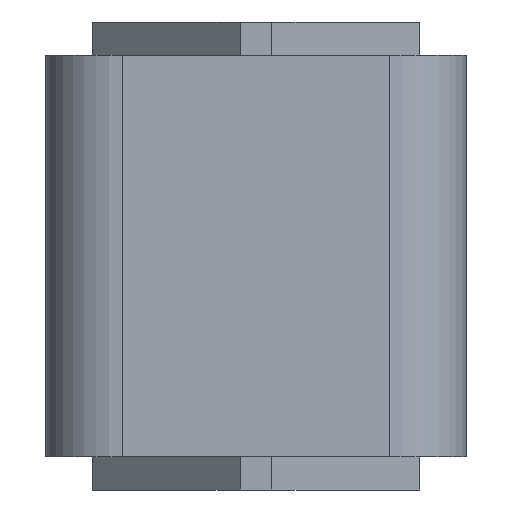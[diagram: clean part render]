
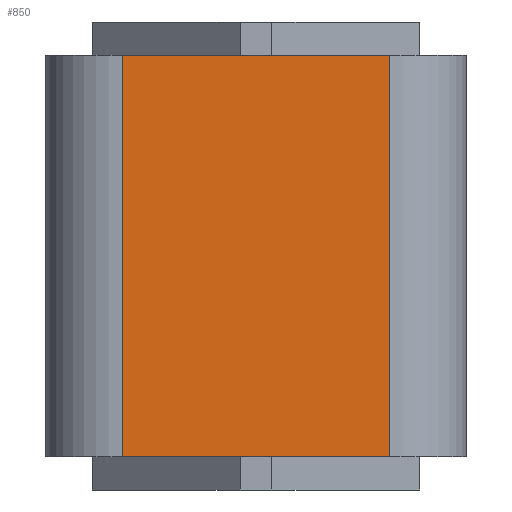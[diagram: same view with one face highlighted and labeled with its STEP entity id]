
A CAD part, front view. The second image highlights one B-rep face of the part: STEP entity #850.
In plain terms, the highlighted planar face has unit normal (0, -1, 0).
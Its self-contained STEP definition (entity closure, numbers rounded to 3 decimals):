
#600=CARTESIAN_POINT('',(-20.,-61.5,60.0));
#601=VERTEX_POINT('',#600);
#619=CARTESIAN_POINT('',(-20.,-61.5,0.0));
#620=VERTEX_POINT('',#619);
#628=CARTESIAN_POINT('',(-20.,-61.5,0.0));
#629=DIRECTION('',(0.0,0.0,1.0));
#630=VECTOR('',#629,60.0);
#631=LINE('',#628,#630);
#632=EDGE_CURVE('',#620,#601,#631,.T.);
#801=CARTESIAN_POINT('',(20.,-61.5,60.0));
#802=VERTEX_POINT('',#801);
#810=CARTESIAN_POINT('',(20.,-61.5,0.0));
#811=VERTEX_POINT('',#810);
#812=CARTESIAN_POINT('',(20.,-61.5,0.0));
#813=DIRECTION('',(0.0,0.0,1.0));
#814=VECTOR('',#813,60.0);
#815=LINE('',#812,#814);
#816=EDGE_CURVE('',#811,#802,#815,.T.);
#829=CARTESIAN_POINT('',(20.,-61.5,0.0));
#830=DIRECTION('',(0.,-1.0,0.0));
#831=DIRECTION('',(0.0,0.0,-1.0));
#832=AXIS2_PLACEMENT_3D('',#829,#830,#831);
#833=PLANE('',#832);
#834=CARTESIAN_POINT('',(20.,-61.5,60.0));
#835=DIRECTION('',(-1.0,0.,0.0));
#836=VECTOR('',#835,40.);
#837=LINE('',#834,#836);
#838=EDGE_CURVE('',#802,#601,#837,.T.);
#839=ORIENTED_EDGE('',*,*,#838,.T.);
#840=ORIENTED_EDGE('',*,*,#632,.F.);
#841=CARTESIAN_POINT('',(-20.,-61.5,0.0));
#842=DIRECTION('',(1.0,0.,0.0));
#843=VECTOR('',#842,40.);
#844=LINE('',#841,#843);
#845=EDGE_CURVE('',#620,#811,#844,.T.);
#846=ORIENTED_EDGE('',*,*,#845,.T.);
#847=ORIENTED_EDGE('',*,*,#816,.T.);
#848=EDGE_LOOP('',(#839,#840,#846,#847));
#849=FACE_OUTER_BOUND('',#848,.T.);
#850=ADVANCED_FACE('',(#849),#833,.T.);
